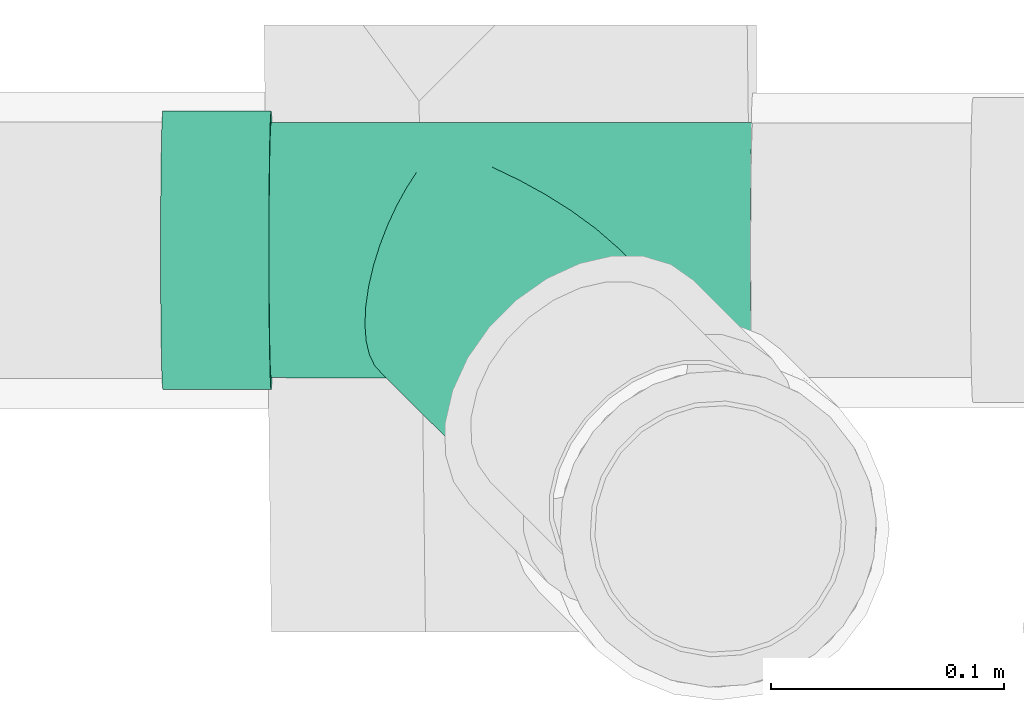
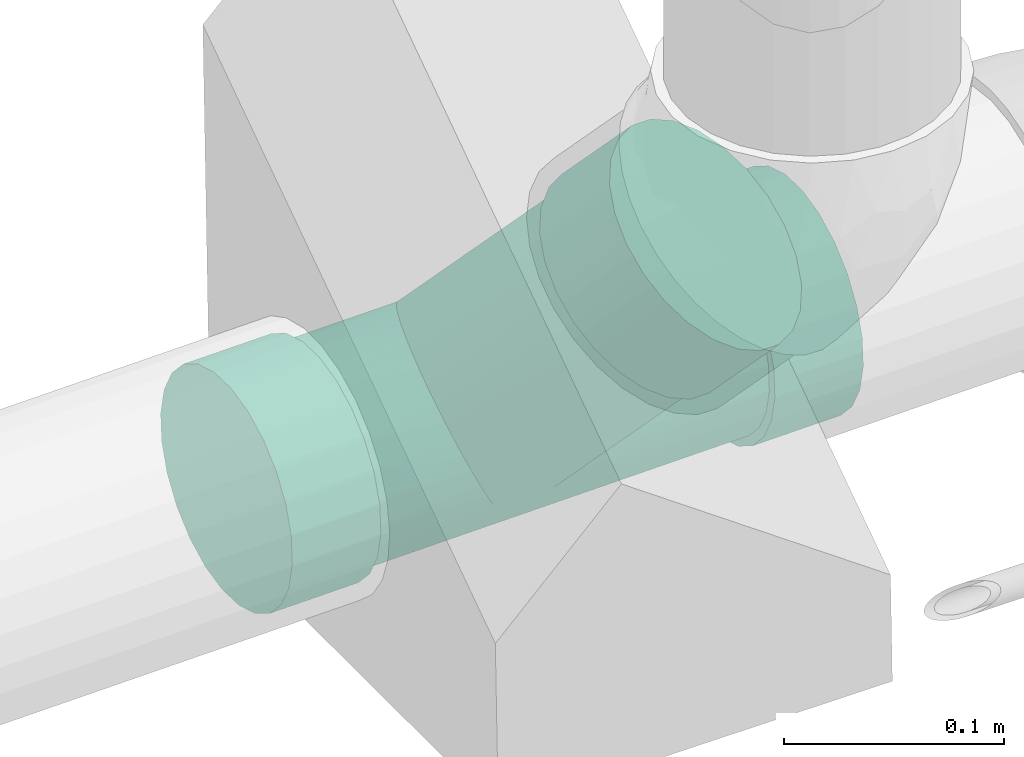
# One storey, part 124 of 156: 1 flow fitting.
"""IFC2X3 building model written with IfcOpenShell, lengths in millimetres."""

from ifc_helpers import new_model, entity, si_unit, converted_unit, derived_unit, direction, frame, origin_with_axes, place, context, subcontext, project, spatial, open_shell, surface_model, source, transform, mapped, type_object, element, save


model = new_model("IFC2X3")

# Units and contexts
model_context = context("Model", 3, precision=0.01, world=frame((0.0, 4.29681676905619e-09, 0.0)), true_north=direction((4.01073788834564e-13, 1.0)))
plan_context = context("Plan", 3, precision=0.01, world=frame((0.0, 4.29681676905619e-09, 0.0)), true_north=direction((4.01073788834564e-13, 1.0)))
body_context = subcontext(model_context, "Body", "Model", "MODEL_VIEW")
ifc_project = project(units=[converted_unit("PLANEANGLEUNIT", "DEGREE", entity("IfcPositiveLengthMeasure", 0.0174532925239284), si_unit("PLANEANGLEUNIT", "RADIAN"), dimensions=[0, 0, 0, 0, 0, 0, 0]), si_unit("AREAUNIT", "SQUARE_METRE"), si_unit("LENGTHUNIT", "METRE", prefix="MILLI"), si_unit("MASSUNIT", "GRAM", prefix="KILO"), si_unit("POWERUNIT", "WATT"), si_unit("PRESSUREUNIT", "PASCAL", prefix="KILO"), si_unit("FORCEUNIT", "NEWTON", prefix="KILO"), si_unit("ELECTRICVOLTAGEUNIT", "VOLT"), si_unit("ELECTRICCURRENTUNIT", "AMPERE"), si_unit("THERMODYNAMICTEMPERATUREUNIT", "DEGREE_CELSIUS"), si_unit("TIMEUNIT", "SECOND"), si_unit("VOLUMEUNIT", "CUBIC_METRE"), derived_unit("LINEARVELOCITYUNIT", [(si_unit("LENGTHUNIT", "METRE"), 1), (si_unit("TIMEUNIT", "SECOND"), -1)]), derived_unit("VOLUMETRICFLOWRATEUNIT", [(si_unit("VOLUMEUNIT", "CUBIC_METRE"), 1), (si_unit("TIMEUNIT", "SECOND"), -1)]), derived_unit("THERMALTRANSMITTANCEUNIT", [(si_unit("POWERUNIT", "WATT"), 1), (si_unit("THERMODYNAMICTEMPERATUREUNIT", "KELVIN"), -1), (si_unit("AREAUNIT", "SQUARE_METRE"), -1)]), derived_unit("SOUNDPRESSUREUNIT", [(si_unit("PRESSUREUNIT", "PASCAL"), 1)])], contexts=[model_context, plan_context])

# Site, building, storey
site_placement = place(None, frame((0.0, -4.29681676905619e-09, 0.0), z_axis=(0.0, 0.0, 1.0), x_axis=(1.0, 0.0, 0.0)))
site = spatial("IfcSite", under=ifc_project, at=site_placement, CompositionType="ELEMENT")
building_placement = place(site_placement, frame((0.0, 4.29681676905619e-09, 0.0), z_axis=(0.0, 0.0, 1.0), x_axis=(1.0, 0.0, 0.0)))
building = spatial("IfcBuilding", under=site, at=building_placement, Name="mc-building", CompositionType="ELEMENT")
storey_placement = place(building_placement, frame((0.0, 0.0, 205200.0), z_axis=(0.0, 0.0, 1.0), x_axis=(1.0, 0.0, 0.0)))
storey = spatial("IfcBuildingStorey", under=building, at=storey_placement, Name="Nivå D + 1,2 m", CompositionType="ELEMENT", Elevation=205200.0)

# Flow fitting
pipe_fitting_type = type_object("IfcPipeFittingType", Name="magi_sewer_tee_wye_NOR", PredefinedType="JUNCTION")
shared_shape = source(origin_with_axes(), body_context, "Body", "SurfaceModel", [
    surface_model("IfcShellBasedSurfaceModel", [(181.08282, 30.0, -51.96152), (181.08282, -42.42641, -42.42641), (181.08282, 15.52914, -57.95555), (181.08282, 51.96152, -30.0), (181.08282, 42.42641, -42.42641), (181.08282, 57.95555, -15.52914), (181.08282, 60.0, 0.0), (181.08282, 0.0, -60.0), (181.08282, -30.0, -51.96152), (181.08282, -15.52914, -57.95555), (181.08282, 57.95555, 15.52914), (181.08282, -51.96152, -30.0), (181.08282, -60.0, 0.0), (181.08282, -57.95555, -15.52914), (181.08282, 51.96152, 30.0), (181.08282, 42.42641, 42.42641), (181.08282, 15.52914, 57.95555), (181.08282, 0.0, 60.0), (181.08282, 30.0, 51.96152), (181.08282, -51.96152, 30.0), (181.08282, -57.95555, 15.52914), (181.08282, -30.0, 51.96152), (181.08282, -42.42641, 42.42641), (181.08282, -15.52914, 57.95555), (134.58283, 42.42641, 42.42641), (134.58283, 0.0, 60.0), (134.58283, 15.52914, 57.95555), (134.58283, 30.0, 51.96152), (134.58283, 51.96152, 30.0), (134.58283, 57.95555, 15.52914), (134.58283, -60.0, 0.0), (134.58283, -30.0, 51.96152), (134.58283, -51.96152, 30.0), (134.58283, -42.42641, 42.42641), (134.58283, -15.52914, 57.95555), (134.58283, -57.95555, 15.52914), (134.58283, -51.96152, -30.0), (134.58283, -42.42641, -42.42641), (134.58283, 57.95555, -15.52914), (134.58283, 42.42641, -42.42641), (134.58283, 51.96152, -30.0), (134.58283, 30.0, -51.96152), (134.58283, 15.52914, -57.95555), (134.58283, -57.95555, -15.52914), (134.58283, -30.0, -51.96152), (134.58283, 0.0, -60.0), (134.58283, -15.52914, -57.95555), (134.58283, 60.0, 0.0), (88.10541, -89.27276, -51.96152), (75.67356, -96.67915, -57.95555), (62.33252, -104.62717, -60.0), (10.78675, -135.33601, 0.0), (112.12193, -74.96471, -15.52914), (106.97248, -78.03255, -30.0), (98.7809, -82.91274, -42.42641), (12.54313, -134.28963, 15.52914), (25.88416, -126.3416, -42.42641), (36.55963, -119.98159, -51.96152), (48.9915, -112.57521, -57.95555), (12.54313, -134.28963, -15.52914), (17.69257, -131.22181, -30.0), (106.97248, -78.03255, 30.0), (112.12193, -74.96471, 15.52914), (88.10541, -89.27276, 51.96152), (98.7809, -82.91274, 42.42641), (17.69257, -131.22181, 30.0), (75.67356, -96.67915, 57.95555), (25.88416, -126.3416, 42.42641), (36.55963, -119.98159, 51.96152), (48.9915, -112.57521, 57.95555), (62.33252, -104.62717, 60.0), (113.87831, -73.91834, 0.0), (86.13187, -144.57515, -60.0), (99.4729, -136.62713, -57.95555), (111.90476, -129.22074, -51.96152), (135.92127, -114.9127, -15.52914), (122.58024, -122.86072, -42.42641), (130.77182, -117.98053, -30.0), (34.58609, -175.284, 0.0), (60.35898, -159.92957, -51.96152), (49.6835, -166.28958, -42.42641), (72.79084, -152.52319, -57.95555), (41.49192, -171.16978, -30.0), (36.34247, -174.2376, -15.52914), (130.77182, -117.98053, 30.0), (135.92127, -114.9127, 15.52914), (49.6835, -166.28958, 42.42641), (111.90476, -129.22074, 51.96152), (86.13187, -144.57515, 60.0), (122.58024, -122.86072, 42.42641), (99.4729, -136.62713, 57.95555), (41.49192, -171.16978, 30.0), (36.34247, -174.2376, 15.52914), (72.79084, -152.52319, 57.95555), (60.35898, -159.92957, 51.96152), (137.67765, -113.86631, 0.0), (-118.7503, -30.0, -51.96152), (-118.7503, 42.42641, -42.42641), (-118.7503, -15.52914, -57.95555), (-118.7503, -51.96152, -30.0), (-118.7503, -42.42641, -42.42641), (-118.7503, -57.95555, -15.52914), (-118.7503, -60.0, 0.0), (-118.7503, 0.0, -60.0), (-118.7503, 30.0, -51.96152), (-118.7503, 15.52914, -57.95555), (-118.7503, -57.95555, 15.52914), (-118.7503, 51.96152, -30.0), (-118.7503, 60.0, 0.0), (-118.7503, 57.95555, -15.52914), (-118.7503, -51.96152, 30.0), (-118.7503, -42.42641, 42.42641), (-118.7503, -15.52914, 57.95555), (-118.7503, 0.0, 60.0), (-118.7503, -30.0, 51.96152), (-118.7503, 51.96152, 30.0), (-118.7503, 57.95555, 15.52914), (-118.7503, 30.0, 51.96152), (-118.7503, 42.42641, 42.42641), (-118.7503, 15.52914, 57.95555), (-72.2503, -42.42641, 42.42641), (-72.2503, 0.0, 60.0), (-72.2503, -15.52914, 57.95555), (-72.2503, -30.0, 51.96152), (-72.2503, -51.96152, 30.0), (-72.2503, -57.95555, 15.52914), (-72.2503, 60.0, 0.0), (-72.2503, 30.0, 51.96152), (-72.2503, 51.96152, 30.0), (-72.2503, 42.42641, 42.42641), (-72.2503, 15.52914, 57.95555), (-72.2503, 57.95555, 15.52914), (-72.2503, 51.96152, -30.0), (-72.2503, 42.42641, -42.42641), (-72.2503, -57.95555, -15.52914), (-72.2503, -42.42641, -42.42641), (-72.2503, -51.96152, -30.0), (-72.2503, -30.0, -51.96152), (-72.2503, -15.52914, -57.95555), (-72.2503, 57.95555, -15.52914), (-72.2503, 30.0, -51.96152), (-72.2503, 0.0, -60.0), (-72.2503, 15.52914, -57.95555), (-72.2503, -60.0, 0.0), (134.58283, 0.0, -55.0), (134.58283, 14.23505, -53.12592), (134.58283, 27.5, -47.63139), (134.58283, 38.89087, -38.89087), (134.58283, 47.63139, -27.5), (134.58283, -55.0, 0.0), (134.58283, -27.5, -47.63139), (134.58283, 53.12592, -14.23505), (134.58283, -14.23505, -53.12592), (134.58283, -47.63139, -27.5), (134.58283, -38.89087, -38.89087), (134.58283, -53.12592, -14.23505), (134.58283, 0.0, 55.0), (134.58283, 55.0, 0.0), (134.58283, 47.63139, 27.5), (134.58283, 27.5, 47.63139), (134.58283, 38.89087, 38.89087), (134.58283, 14.23505, 53.12592), (134.58283, -47.63139, 27.5), (134.58283, -53.12592, 14.23505), (134.58283, -27.5, 47.63139), (134.58283, -38.89087, 38.89087), (134.58283, -14.23505, 53.12592), (134.58283, 53.12592, 14.23505), (-72.2503, 0.0, 55.0), (-72.2503, 14.23505, 53.12592), (-72.2503, 27.5, 47.63139), (-72.2503, 47.63139, 27.5), (-72.2503, -47.63139, 27.5), (-72.2503, 38.89087, 38.89087), (-72.2503, 53.12592, -14.23505), (-72.2503, -27.5, 47.63139), (-72.2503, -14.23505, 53.12592), (-72.2503, -38.89087, 38.89087), (-72.2503, -55.0, 0.0), (-72.2503, -53.12592, 14.23505), (-72.2503, 53.12592, 14.23505), (-72.2503, 47.63139, -27.5), (-72.2503, -27.5, -47.63139), (-72.2503, 0.0, -55.0), (-72.2503, 38.89087, -38.89087), (-72.2503, 27.5, -47.63139), (-72.2503, 14.23505, -53.12592), (-72.2503, -47.63139, -27.5), (-72.2503, -38.89087, -38.89087), (-72.2503, -53.12592, -14.23505), (-72.2503, -14.23505, -53.12592), (-72.2503, 55.0, 0.0), (-72.2503, -54.06296, -7.11752), (-30.80841, -54.21578, -9.2547), (-31.03122, -54.60789, -4.62735), (-30.15461, -53.06524, -13.70842), (-27.408, -48.23184, -26.43274), (-28.45441, -50.07327, -22.29744), (-24.63653, -43.35469, -33.84333), (-72.2503, -43.26114, -33.19544), (-21.30604, -37.49377, -40.2395), (-72.2503, -33.19544, -43.26114), (-72.2503, -50.37866, -20.86752), (95.4202, -54.22304, -6.4907), (134.58283, -54.06296, -7.11752), (-17.53371, -30.85534, -45.52964), (-29.50081, -51.91471, -18.16213), (-4.57591, -8.05256, -54.40732), (-72.2503, -7.11752, -54.06296), (87.21809, -49.56214, -23.84521), (134.58283, -50.37866, -20.86752), (90.63551, -51.50411, -18.4133), (94.05293, -53.44608, -12.98139), (96.78748, -55.0, 0.0), (78.22131, -44.44968, -32.39176), (134.58283, -43.26114, -33.19544), (82.7197, -47.00591, -28.11849), (-13.4256, -23.62601, -49.66701), (-72.2503, -20.86752, -50.37866), (57.34741, -32.58797, -44.30603), (46.20624, -26.25694, -48.32777), (68.10126, -38.69891, -39.0819), (-9.07757, -15.97446, -52.62905), (0.0, 0.0, -55.0), (-31.25404, -55.0, 0.0), (23.28993, -13.23463, -53.38394), (11.66535, -6.6289, -54.59907), (34.82418, -19.78903, -51.31661), (0.0, 0.0, 55.0), (-4.57591, -8.05256, 54.40732), (-72.2503, -7.11752, 54.06296), (82.7197, -47.00591, 28.11849), (134.58283, -43.26114, 33.19544), (78.22131, -44.44968, 32.39176), (-9.07757, -15.97446, 52.62905), (-72.2503, -20.86752, 50.37866), (-13.4256, -23.62601, 49.66701), (90.63551, -51.50411, 18.4133), (94.05293, -53.44608, 12.98139), (95.4202, -54.22304, 6.4907), (11.66535, -6.6289, 54.59907), (23.28993, -13.23463, 53.38394), (34.82418, -19.78903, 51.31661), (-17.53371, -30.85534, 45.52964), (-72.2503, -33.19544, 43.26114), (-21.30604, -37.49377, 40.2395), (-24.63653, -43.35469, 33.84333), (-72.2503, -43.26114, 33.19544), (-30.80841, -54.21578, 9.2547), (-72.2503, -54.06296, 7.11752), (-27.408, -48.23184, 26.43274), (-31.03122, -54.60789, 4.62735), (-72.2503, -50.37866, 20.86752), (-28.45441, -50.07327, 22.29744), (-30.15461, -53.06524, 13.70842), (-29.50081, -51.91471, 18.16213), (134.58283, -50.37866, 20.86752), (87.21809, -49.56214, 23.84521), (134.58283, -54.06296, 7.11752), (57.34741, -32.58797, 44.30603), (68.10126, -38.69891, 39.0819), (46.20624, -26.25694, 48.32777), (62.33252, -104.62717, -55.0), (21.41257, -129.00559, 27.5), (15.08223, -132.77694, 0.0), (85.95767, -90.55229, -47.63139), (109.58283, -76.47741, 0.0), (74.5618, -97.34148, -53.12592), (95.74353, -84.72228, -38.89087), (103.25248, -80.24876, -27.5), (107.97281, -77.43659, -14.23505), (38.70738, -118.70206, -47.63139), (21.41257, -129.00559, -27.5), (28.92152, -124.53206, -38.89087), (50.10325, -111.91287, -53.12592), (16.69224, -131.81776, -14.23505), (107.97281, -77.43659, 14.23505), (103.25248, -80.24876, 27.5), (95.74353, -84.72228, 38.89087), (85.95767, -90.55229, 47.63139), (74.5618, -97.34148, 53.12592), (62.33252, -104.62717, 55.0), (38.70738, -118.70206, 47.63139), (28.92152, -124.53206, 38.89087), (16.69224, -131.81776, 14.23505), (50.10325, -111.91287, 53.12592), (99.49801, -82.48553, 33.19544), (105.61265, -78.84267, 20.86752), (105.61265, -78.84267, -20.86752), (99.49801, -82.48553, -33.19544)], [open_shell([[[0, 1, 2]], [[3, 0, 4]], [[5, 6, 0]], [[5, 0, 3]], [[1, 0, 6]], [[7, 8, 9]], [[8, 7, 1]], [[2, 1, 7]], [[1, 10, 11]], [[11, 12, 13]], [[10, 1, 6]], [[10, 14, 15]], [[12, 10, 15]], [[16, 17, 15]], [[16, 15, 18]], [[19, 15, 17]], [[12, 19, 20]], [[12, 15, 19]], [[19, 21, 22]], [[19, 17, 21]], [[23, 21, 17]], [[10, 12, 11]], [[24, 25, 26]], [[24, 26, 27]], [[24, 28, 29]], [[25, 24, 30]], [[30, 24, 29]], [[31, 32, 33]], [[31, 34, 25]], [[32, 30, 35]], [[31, 25, 32]], [[25, 30, 32]], [[29, 36, 30]], [[37, 29, 38]], [[39, 38, 40]], [[41, 42, 38]], [[41, 38, 39]], [[37, 38, 42]], [[37, 36, 29]], [[43, 30, 36]], [[44, 45, 46]], [[45, 44, 37]], [[45, 37, 42]], [[47, 38, 29]], [[43, 13, 30]], [[36, 11, 43]], [[8, 37, 44]], [[36, 37, 1]], [[9, 44, 46]], [[43, 11, 13]], [[13, 12, 30]], [[9, 8, 44]], [[1, 37, 8]], [[1, 11, 36]], [[7, 9, 46]], [[46, 45, 7]], [[2, 42, 41]], [[39, 0, 41]], [[3, 40, 38]], [[39, 40, 4]], [[5, 38, 47]], [[42, 2, 45]], [[41, 0, 2]], [[45, 2, 7]], [[39, 4, 0]], [[40, 3, 4]], [[5, 3, 38]], [[47, 6, 5]], [[29, 10, 47]], [[28, 14, 29]], [[18, 24, 27]], [[28, 24, 15]], [[16, 27, 26]], [[29, 14, 10]], [[10, 6, 47]], [[18, 27, 16]], [[15, 24, 18]], [[15, 14, 28]], [[16, 25, 17]], [[16, 26, 25]], [[23, 34, 31]], [[33, 21, 31]], [[19, 32, 35]], [[33, 32, 22]], [[20, 35, 30]], [[34, 23, 25]], [[31, 21, 23]], [[25, 23, 17]], [[33, 22, 21]], [[32, 19, 22]], [[20, 19, 35]], [[30, 12, 20]], [[48, 49, 50]], [[48, 50, 51]], [[48, 52, 53]], [[54, 48, 53]], [[48, 51, 55]], [[56, 51, 57]], [[50, 58, 57]], [[59, 51, 60]], [[56, 60, 51]], [[57, 51, 50]], [[55, 52, 48]], [[52, 61, 62]], [[55, 61, 52]], [[55, 63, 61]], [[64, 61, 63]], [[63, 65, 66]], [[67, 68, 65]], [[63, 55, 65]], [[69, 70, 68]], [[65, 68, 70]], [[65, 70, 66]], [[62, 71, 52]], [[72, 73, 74]], [[72, 74, 75]], [[76, 77, 75]], [[76, 75, 74]], [[72, 75, 78]], [[79, 78, 80]], [[79, 81, 72]], [[82, 78, 83]], [[78, 82, 80]], [[72, 78, 79]], [[75, 84, 78]], [[85, 84, 75]], [[78, 84, 86]], [[84, 87, 88]], [[87, 84, 89]], [[90, 88, 87]], [[78, 91, 92]], [[86, 91, 78]], [[86, 93, 94]], [[93, 86, 88]], [[84, 88, 86]], [[95, 85, 75]], [[92, 51, 78]], [[91, 55, 92]], [[67, 86, 94]], [[91, 86, 65]], [[68, 94, 93]], [[91, 65, 55]], [[55, 51, 92]], [[69, 88, 70]], [[69, 68, 93]], [[67, 94, 68]], [[67, 65, 86]], [[88, 69, 93]], [[63, 90, 87]], [[89, 64, 87]], [[62, 84, 85]], [[89, 84, 61]], [[71, 85, 95]], [[90, 66, 70]], [[90, 63, 66]], [[87, 64, 63]], [[89, 61, 64]], [[62, 61, 84]], [[85, 71, 62]], [[90, 70, 88]], [[75, 71, 95]], [[77, 52, 75]], [[54, 76, 74]], [[77, 76, 53]], [[48, 74, 73]], [[77, 53, 52]], [[52, 71, 75]], [[49, 72, 50]], [[49, 48, 73]], [[54, 74, 48]], [[54, 53, 76]], [[72, 49, 73]], [[57, 81, 79]], [[80, 56, 79]], [[59, 82, 83]], [[80, 82, 60]], [[51, 83, 78]], [[58, 50, 81]], [[58, 81, 57]], [[79, 56, 57]], [[80, 60, 56]], [[59, 60, 82]], [[83, 51, 59]], [[81, 50, 72]], [[96, 97, 98]], [[99, 96, 100]], [[101, 102, 96]], [[101, 96, 99]], [[97, 96, 102]], [[103, 104, 105]], [[104, 103, 97]], [[98, 97, 103]], [[97, 106, 107]], [[107, 108, 109]], [[106, 97, 102]], [[106, 110, 111]], [[108, 106, 111]], [[112, 113, 111]], [[112, 111, 114]], [[115, 111, 113]], [[108, 115, 116]], [[108, 111, 115]], [[115, 117, 118]], [[115, 113, 117]], [[119, 117, 113]], [[106, 108, 107]], [[120, 121, 122]], [[120, 122, 123]], [[120, 124, 125]], [[121, 120, 126]], [[126, 120, 125]], [[127, 128, 129]], [[127, 130, 121]], [[128, 126, 131]], [[127, 121, 128]], [[121, 126, 128]], [[125, 132, 126]], [[133, 125, 134]], [[135, 134, 136]], [[137, 138, 134]], [[137, 134, 135]], [[133, 134, 138]], [[133, 132, 125]], [[139, 126, 132]], [[140, 141, 142]], [[141, 140, 133]], [[141, 133, 138]], [[143, 134, 125]], [[139, 109, 126]], [[132, 107, 139]], [[104, 133, 140]], [[132, 133, 97]], [[105, 140, 142]], [[139, 107, 109]], [[109, 108, 126]], [[105, 104, 140]], [[97, 133, 104]], [[97, 107, 132]], [[103, 105, 142]], [[142, 141, 103]], [[98, 138, 137]], [[135, 96, 137]], [[99, 136, 134]], [[135, 136, 100]], [[101, 134, 143]], [[138, 98, 141]], [[137, 96, 98]], [[141, 98, 103]], [[135, 100, 96]], [[136, 99, 100]], [[101, 99, 134]], [[143, 102, 101]], [[125, 106, 143]], [[124, 110, 125]], [[114, 120, 123]], [[124, 120, 111]], [[112, 123, 122]], [[125, 110, 106]], [[106, 102, 143]], [[114, 123, 112]], [[111, 120, 114]], [[111, 110, 124]], [[112, 121, 113]], [[112, 122, 121]], [[119, 130, 127]], [[129, 117, 127]], [[115, 128, 131]], [[129, 128, 118]], [[116, 131, 126]], [[130, 119, 121]], [[127, 117, 119]], [[121, 119, 113]], [[129, 118, 117]], [[128, 115, 118]], [[116, 115, 131]], [[126, 108, 116]], [[144, 145, 146]], [[147, 144, 146]], [[148, 149, 150]], [[148, 150, 147]], [[148, 151, 149]], [[144, 150, 152]], [[144, 147, 150]], [[150, 153, 154]], [[153, 150, 149]], [[149, 155, 153]], [[156, 151, 157]], [[157, 158, 156]], [[159, 158, 160]], [[159, 161, 156]], [[159, 156, 158]], [[151, 156, 162]], [[149, 162, 163]], [[151, 162, 149]], [[156, 164, 165]], [[165, 162, 156]], [[164, 156, 166]], [[157, 167, 158]], [[168, 169, 170]], [[168, 170, 171]], [[168, 171, 172]], [[171, 170, 173]], [[174, 172, 171]], [[168, 175, 176]], [[168, 177, 175]], [[172, 178, 179]], [[177, 168, 172]], [[172, 174, 178]], [[174, 171, 180]], [[174, 181, 178]], [[181, 182, 178]], [[183, 184, 185]], [[181, 184, 183]], [[185, 186, 183]], [[187, 182, 188]], [[189, 178, 187]], [[182, 183, 190]], [[187, 178, 182]], [[183, 182, 181]], [[191, 174, 180]], [[192, 189, 193]], [[178, 192, 194]], [[195, 193, 189]], [[196, 197, 187]], [[198, 199, 188]], [[200, 188, 201]], [[187, 197, 202]], [[198, 196, 187]], [[200, 198, 188]], [[149, 203, 204]], [[201, 182, 205]], [[197, 206, 202]], [[207, 190, 208]], [[209, 210, 211]], [[212, 204, 203]], [[149, 213, 203]], [[211, 155, 212]], [[214, 215, 216]], [[217, 182, 218]], [[192, 193, 194]], [[150, 219, 220]], [[221, 219, 154]], [[154, 215, 221]], [[154, 219, 150]], [[215, 153, 216]], [[198, 187, 199]], [[155, 211, 210]], [[200, 201, 205]], [[205, 182, 217]], [[217, 218, 222]], [[222, 218, 190]], [[208, 183, 223]], [[212, 155, 204]], [[207, 222, 190]], [[207, 208, 223]], [[189, 206, 195]], [[183, 186, 223]], [[221, 215, 214]], [[147, 184, 181]], [[148, 181, 174]], [[145, 186, 185]], [[146, 185, 184]], [[145, 223, 186]], [[151, 174, 191]], [[153, 209, 216]], [[178, 194, 224]], [[225, 226, 152]], [[227, 225, 152]], [[152, 150, 227]], [[152, 226, 144]], [[227, 150, 220]], [[223, 144, 226]], [[209, 153, 210]], [[145, 144, 223]], [[146, 145, 185]], [[146, 184, 147]], [[148, 147, 181]], [[151, 148, 174]], [[191, 157, 151]], [[206, 189, 202]], [[158, 171, 173]], [[171, 158, 180]], [[167, 191, 180]], [[170, 160, 173]], [[168, 228, 169]], [[229, 230, 176]], [[231, 232, 233]], [[234, 229, 176]], [[234, 176, 235]], [[234, 235, 236]], [[235, 175, 236]], [[170, 169, 159]], [[230, 228, 168]], [[157, 191, 167]], [[167, 180, 158]], [[170, 159, 160]], [[159, 169, 161]], [[160, 158, 173]], [[163, 237, 238]], [[149, 239, 213]], [[240, 241, 166]], [[228, 240, 156]], [[240, 166, 156]], [[166, 241, 242]], [[164, 166, 242]], [[228, 230, 229]], [[228, 156, 161]], [[228, 161, 169]], [[243, 175, 244]], [[244, 177, 245]], [[246, 247, 172]], [[248, 179, 249]], [[243, 244, 245]], [[246, 245, 177]], [[232, 231, 162]], [[172, 250, 246]], [[246, 177, 247]], [[178, 224, 251]], [[249, 251, 248]], [[252, 253, 172]], [[254, 255, 179]], [[178, 251, 249]], [[256, 257, 237]], [[255, 252, 179]], [[258, 238, 239]], [[179, 248, 254]], [[259, 260, 165]], [[261, 259, 164]], [[259, 165, 164]], [[260, 233, 232]], [[260, 232, 165]], [[172, 253, 250]], [[261, 164, 242]], [[252, 255, 253]], [[149, 258, 239]], [[163, 256, 237]], [[257, 256, 162]], [[163, 238, 258]], [[257, 162, 231]], [[243, 236, 175]], [[262, 263, 264]], [[265, 266, 267]], [[268, 269, 270]], [[265, 268, 266]], [[267, 263, 262]], [[271, 272, 273]], [[271, 274, 262]], [[272, 264, 275]], [[264, 272, 271]], [[262, 264, 271]], [[270, 266, 268]], [[266, 276, 277]], [[263, 266, 277]], [[278, 279, 280]], [[278, 280, 277]], [[281, 277, 280]], [[263, 282, 283]], [[284, 264, 263]], [[277, 285, 282]], [[263, 277, 282]], [[281, 285, 277]], [[263, 267, 266]], [[264, 284, 248]], [[233, 278, 286]], [[248, 224, 264]], [[248, 284, 255]], [[283, 282, 243]], [[246, 263, 283]], [[255, 284, 263]], [[236, 282, 285]], [[250, 255, 263]], [[245, 246, 283]], [[250, 263, 246]], [[236, 243, 282]], [[229, 234, 285]], [[281, 228, 229]], [[236, 285, 234]], [[245, 283, 243]], [[276, 237, 287]], [[229, 285, 281]], [[279, 242, 280]], [[280, 240, 281]], [[259, 279, 278]], [[238, 276, 266]], [[286, 277, 233]], [[237, 276, 238]], [[266, 213, 238]], [[261, 242, 279]], [[241, 240, 280]], [[242, 241, 280]], [[257, 277, 287]], [[257, 287, 237]], [[260, 259, 278]], [[233, 260, 278]], [[257, 233, 277]], [[261, 279, 259]], [[281, 240, 228]], [[266, 270, 212]], [[270, 211, 212]], [[212, 213, 266]], [[288, 211, 270]], [[268, 265, 219]], [[214, 289, 268]], [[209, 288, 269]], [[227, 265, 267]], [[214, 209, 269]], [[219, 221, 268]], [[214, 268, 221]], [[227, 220, 265]], [[226, 225, 267]], [[262, 223, 226]], [[227, 267, 225]], [[219, 265, 220]], [[288, 209, 211]], [[226, 267, 262]], [[271, 217, 274]], [[274, 207, 262]], [[205, 271, 273]], [[193, 275, 264]], [[273, 272, 198]], [[275, 206, 272]], [[264, 224, 193]], [[205, 217, 271]], [[222, 207, 274]], [[217, 222, 274]], [[214, 269, 289]], [[193, 206, 275]], [[198, 200, 273]], [[196, 198, 272]], [[206, 196, 272]], [[205, 273, 200]], [[262, 207, 223]]])]),
])
flow_fitting_placement = place(storey_placement, frame((327391.23939, 462724.75736, 4208.82506), z_axis=(-0.00970199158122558, 0.813036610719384, 0.582131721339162), x_axis=(0.999861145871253, 0.0, 0.0166640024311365)))
element("IfcFlowFitting", 1, at=flow_fitting_placement, inside=storey, type_object=pipe_fitting_type, Name="magi_sewer_tee_wye_NOR", context=body_context, shape_type="MappedRepresentation", body=[
    mapped(shared_shape, transform((0.0, 0.0, 0.0), scale=1.0)),
])

save(model, "model.ifc")
